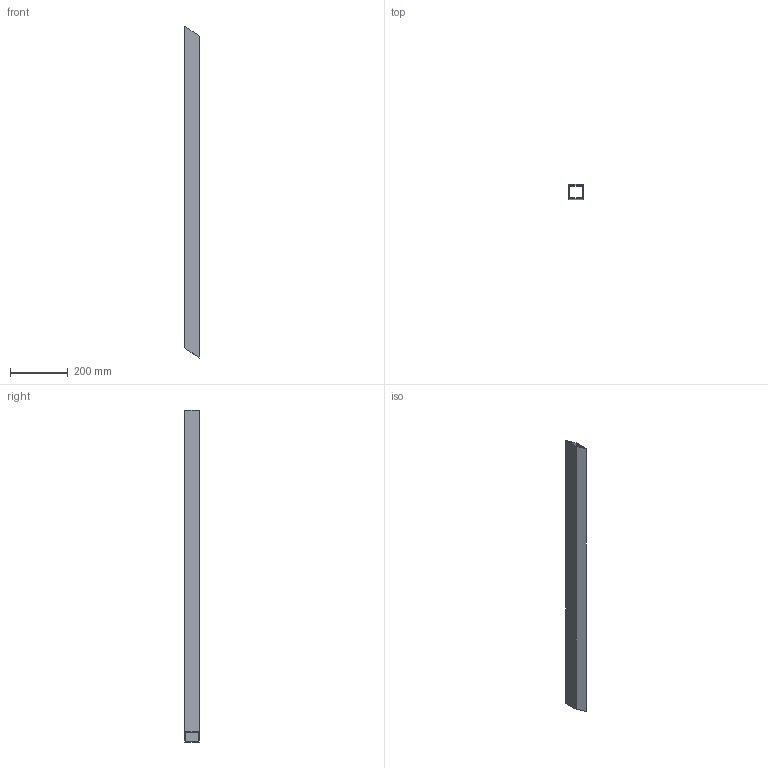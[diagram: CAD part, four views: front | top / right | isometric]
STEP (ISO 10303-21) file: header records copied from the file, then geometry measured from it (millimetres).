
FILE_DESCRIPTION(('Open CASCADE Model'),'2;1');
FILE_NAME('Open CASCADE Shape Model','2026-10-19T10:09:28',('Author'),( 'Open CASCADE'),'Open CASCADE STEP processor 8.0','Open CASCADE 8.0' ,'Unknown');
FILE_SCHEMA(('AUTOMOTIVE_DESIGN { 1 0 10303 214 1 1 1 1 }'));
Length unit declared in the file: millimetre
Products named in the file (1): AC_SHS50x50x4_L1110274_cb4c2e 193
Bounding box: 50 x 50 x 1145.06 mm (x, y, z)
Volume: 817161.9 mm3; surface area: 410374.1 mm2
Topology: 1 solids, 1 shells, 10 faces, 24 edges, 16 vertices
Faces by surface type: plane 10
Entity records: 582 total; most frequent: CARTESIAN_POINT 131, DIRECTION 62, ORIENTED_EDGE 48, PCURVE 48, DEFINITIONAL_REPRESENTATION 48, LINE 40, VECTOR 40, B_SPLINE_CURVE_WITH_KNOTS 32
